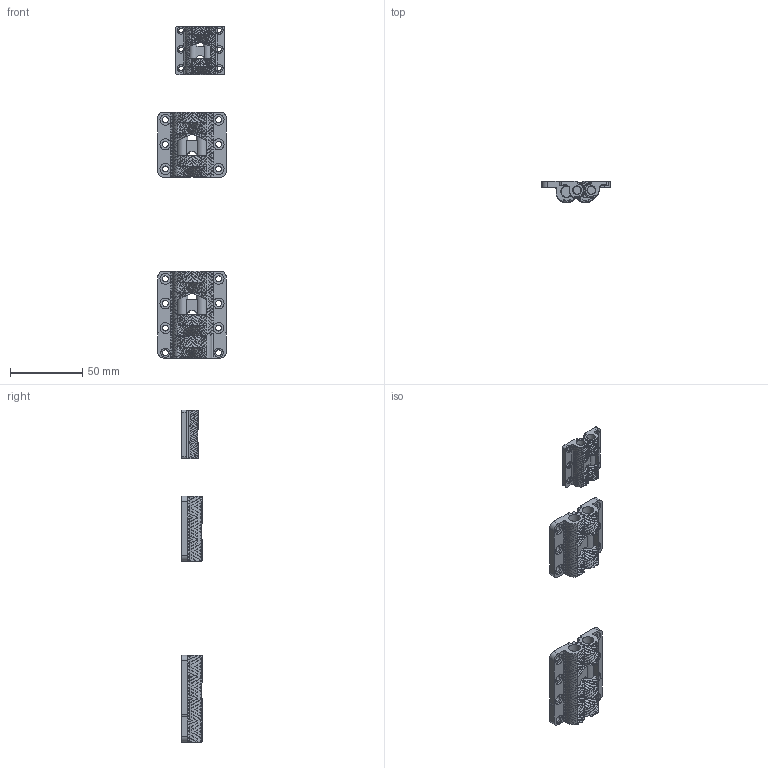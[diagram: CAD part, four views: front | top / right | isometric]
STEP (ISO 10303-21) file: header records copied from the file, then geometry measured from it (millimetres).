
FILE_DESCRIPTION(/* description */ (''),/* implementation_level */ '2;1');
FILE_NAME(/* name */ 'C:/Users/soder/Desktop/STL_Mesh/PIP mini gear hinge (v3~recovered).step',/* time_stamp */ '2022-02-01T16:55:15-05:00',/* author */ (''),/* organization */ (''),/* preprocessor_version */ 'ST-DEVELOPER v18.1',/* originating_system */ 'Autodesk Translation Framework v10.13.0.1454',/* authorisation */ '');
FILE_SCHEMA (('AUTOMOTIVE_DESIGN { 1 0 10303 214 3 1 1 }'));
Products named in the file (8): PIP mini gear hinge (v3~recovered); Healical Gear (11R@60.00 m=0.6); Healical Gear (11L@60.00 m=0.6); Healical Gear (11R@60.00 m=0.6) (1); Healical Gear (11L@60.00 m=0.6) (1); Component7; Component8; Component9
Assembly tree (7 placements, depth 2):
  PIP mini gear hinge (v3~recovered)
    Healical Gear (11R@60.00 m=0.6)
    Healical Gear (11L@60.00 m=0.6)
    Healical Gear (11R@60.00 m=0.6) (1)
    Healical Gear (11L@60.00 m=0.6) (1)
    Component7
    Component8
    Component9
Bounding box: 47.2 x 14.4 x 229.5 mm (x, y, z)
Volume: 38773.3 mm3; surface area: 35541.8 mm2
Topology: 9 solids, 9 shells, 2495 faces, 6183 edges, 3682 vertices
Faces by surface type: bspline 1691, plane 415, cylinder 330, cone 55, torus 4
Full cylindrical faces by diameter (mm): 3.075 x6, 3.15 x2, 4.1 x14, 4.5 x4, 5.25 x6, 5.4 x3, 6 x3, 6.4 x2, 7.4 x6, 7.5 x10, 8 x6
Entity records: 127438 total; most frequent: CARTESIAN_POINT 82051, ORIENTED_EDGE 12204, EDGE_CURVE 6102, DIRECTION 4666, VERTEX_POINT 3665, B_SPLINE_CURVE_WITH_KNOTS 3612, EDGE_LOOP 2543, FACE_OUTER_BOUND 2467
